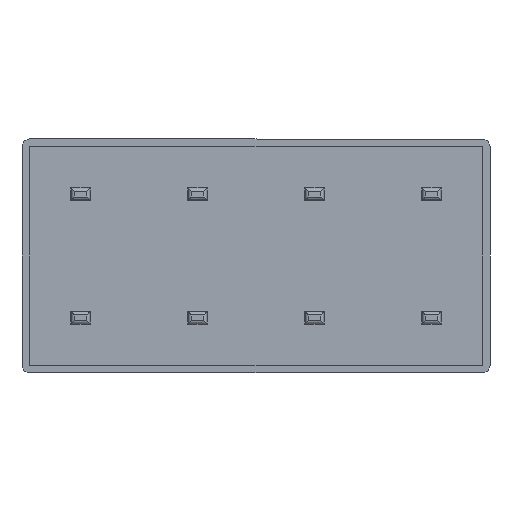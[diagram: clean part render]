
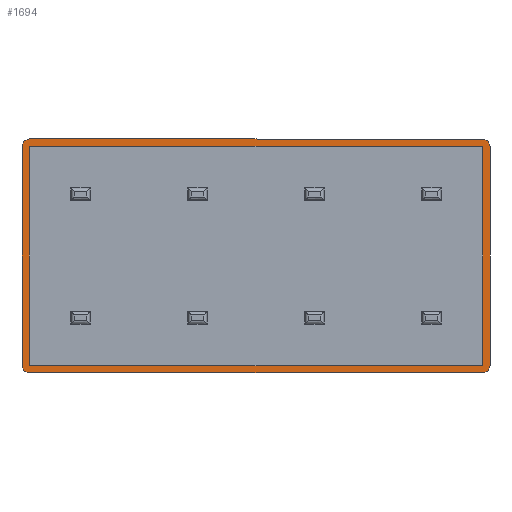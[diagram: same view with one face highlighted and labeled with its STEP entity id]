
A CAD part, front view. The second image highlights one B-rep face of the part: STEP entity #1694.
In plain terms, the highlighted planar face has unit normal (0, -1, 0).
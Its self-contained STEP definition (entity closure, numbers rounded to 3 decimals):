
#26 = PLANE ( 'NONE',  #1703 ) ;
#62 = EDGE_CURVE ( 'NONE', #1124, #2575, #727, .T. ) ;
#72 = DIRECTION ( 'NONE',  ( 0., 0., 1. ) ) ;
#83 = DIRECTION ( 'NONE',  ( 0., 0., -1. ) ) ;
#100 = DIRECTION ( 'NONE',  ( 0., 0., 1. ) ) ;
#116 = EDGE_CURVE ( 'NONE', #1579, #312, #1731, .T. ) ;
#119 = DIRECTION ( 'NONE',  ( 0., 0., 1. ) ) ;
#124 = DIRECTION ( 'NONE',  ( 0., 0., 1. ) ) ;
#136 = EDGE_CURVE ( 'NONE', #1507, #2157, #1666, .T. ) ;
#140 = CARTESIAN_POINT ( 'NONE',  ( 58., -1.5, 28.2 ) ) ;
#141 = DIRECTION ( 'NONE',  ( 0., 0., 1. ) ) ;
#161 = DIRECTION ( 'NONE',  ( 0., 0., -1. ) ) ;
#174 = EDGE_CURVE ( 'NONE', #1871, #1124, #950, .T. ) ;
#210 = VECTOR ( 'NONE', #1228, 1000. ) ;
#269 = AXIS2_PLACEMENT_3D ( 'NONE', #2700, #1409, #141 ) ;
#278 = CARTESIAN_POINT ( 'NONE',  ( -58., -1.5, 28.2 ) ) ;
#288 = CARTESIAN_POINT ( 'NONE',  ( 60., -1.5, 28. ) ) ;
#310 = ORIENTED_EDGE ( 'NONE', *, *, #576, .F. ) ;
#312 = VERTEX_POINT ( 'NONE', #2446 ) ;
#369 = VECTOR ( 'NONE', #2527, 1000. ) ;
#403 = CARTESIAN_POINT ( 'NONE',  ( -58.2, -1.5, 28. ) ) ;
#430 = CARTESIAN_POINT ( 'NONE',  ( -58., -1.5, 28. ) ) ;
#440 = CARTESIAN_POINT ( 'NONE',  ( -58., -1.5, 30. ) ) ;
#444 = DIRECTION ( 'NONE',  ( 0., 0., 1. ) ) ;
#462 = VERTEX_POINT ( 'NONE', #512 ) ;
#496 = EDGE_CURVE ( 'NONE', #920, #2726, #1438, .T. ) ;
#512 = CARTESIAN_POINT ( 'NONE',  ( -58., -1.5, -30. ) ) ;
#522 = ORIENTED_EDGE ( 'NONE', *, *, #2472, .F. ) ;
#525 = EDGE_CURVE ( 'NONE', #1033, #1347, #2423, .T. ) ;
#564 = CARTESIAN_POINT ( 'NONE',  ( -60., -1.5, -28. ) ) ;
#576 = EDGE_CURVE ( 'NONE', #2575, #462, #2356, .T. ) ;
#612 = CARTESIAN_POINT ( 'NONE',  ( -58., -1.5, -28. ) ) ;
#630 = ORIENTED_EDGE ( 'NONE', *, *, #525, .F. ) ;
#639 = DIRECTION ( 'NONE',  ( 0., 0., -1. ) ) ;
#679 = CARTESIAN_POINT ( 'NONE',  ( 58., -1.5, 30. ) ) ;
#684 = EDGE_CURVE ( 'NONE', #2554, #1871, #1336, .T. ) ;
#727 = CIRCLE ( 'NONE', #1570, 2. ) ;
#754 = CARTESIAN_POINT ( 'NONE',  ( -58., -1.5, -30. ) ) ;
#756 = ORIENTED_EDGE ( 'NONE', *, *, #2197, .F. ) ;
#759 = CARTESIAN_POINT ( 'NONE',  ( -58., -1.5, -28. ) ) ;
#824 = DIRECTION ( 'NONE',  ( 0., 0., 1. ) ) ;
#838 = ORIENTED_EDGE ( 'NONE', *, *, #136, .F. ) ;
#845 = VECTOR ( 'NONE', #1063, 1000. ) ;
#849 = EDGE_CURVE ( 'NONE', #875, #1579, #924, .T. ) ;
#868 = VECTOR ( 'NONE', #100, 1000. ) ;
#875 = VERTEX_POINT ( 'NONE', #403 ) ;
#879 = CARTESIAN_POINT ( 'NONE',  ( 58.2, -1.5, -28. ) ) ;
#909 = CARTESIAN_POINT ( 'NONE',  ( -60., -1.5, 28. ) ) ;
#920 = VERTEX_POINT ( 'NONE', #879 ) ;
#924 = LINE ( 'NONE', #1241, #369 ) ;
#945 = ORIENTED_EDGE ( 'NONE', *, *, #1150, .F. ) ;
#949 = ORIENTED_EDGE ( 'NONE', *, *, #2181, .F. ) ;
#950 = LINE ( 'NONE', #1424, #2681 ) ;
#958 = AXIS2_PLACEMENT_3D ( 'NONE', #430, #1914, #639 ) ;
#963 = DIRECTION ( 'NONE',  ( 0., 0., -1. ) ) ;
#994 = CARTESIAN_POINT ( 'NONE',  ( -58.2, -1.5, -28. ) ) ;
#1014 = CARTESIAN_POINT ( 'NONE',  ( -58., -1.5, -28.2 ) ) ;
#1033 = VERTEX_POINT ( 'NONE', #2706 ) ;
#1063 = DIRECTION ( 'NONE',  ( 1., 0., 0. ) ) ;
#1074 = CARTESIAN_POINT ( 'NONE',  ( 58., -1.5, 28. ) ) ;
#1085 = VECTOR ( 'NONE', #1817, 1000. ) ;
#1124 = VERTEX_POINT ( 'NONE', #1442 ) ;
#1141 = LINE ( 'NONE', #909, #2137 ) ;
#1150 = EDGE_CURVE ( 'NONE', #312, #1338, #2536, .T. ) ;
#1164 = VECTOR ( 'NONE', #1616, 1000. ) ;
#1172 = CARTESIAN_POINT ( 'NONE',  ( -58., -1.5, 28.2 ) ) ;
#1202 = ORIENTED_EDGE ( 'NONE', *, *, #1695, .F. ) ;
#1228 = DIRECTION ( 'NONE',  ( 1., 0., 0. ) ) ;
#1237 = CARTESIAN_POINT ( 'NONE',  ( 58.2, -1.5, 28. ) ) ;
#1241 = CARTESIAN_POINT ( 'NONE',  ( -58.2, -1.5, 28. ) ) ;
#1252 = AXIS2_PLACEMENT_3D ( 'NONE', #612, #2096, #824 ) ;
#1293 = DIRECTION ( 'NONE',  ( 0., 0., -1. ) ) ;
#1336 = CIRCLE ( 'NONE', #269, 2. ) ;
#1338 = VERTEX_POINT ( 'NONE', #1962 ) ;
#1347 = VERTEX_POINT ( 'NONE', #2576 ) ;
#1356 = DIRECTION ( 'NONE',  ( 0., -1., 0. ) ) ;
#1387 = DIRECTION ( 'NONE',  ( 0., 1., 0. ) ) ;
#1391 = DIRECTION ( 'NONE',  ( 0., 1., 0. ) ) ;
#1409 = DIRECTION ( 'NONE',  ( 0., 1., 0. ) ) ;
#1424 = CARTESIAN_POINT ( 'NONE',  ( 60., -1.5, 28. ) ) ;
#1438 = LINE ( 'NONE', #2664, #868 ) ;
#1442 = CARTESIAN_POINT ( 'NONE',  ( 60., -1.5, -28. ) ) ;
#1464 = ORIENTED_EDGE ( 'NONE', *, *, #496, .F. ) ;
#1507 = VERTEX_POINT ( 'NONE', #140 ) ;
#1549 = ORIENTED_EDGE ( 'NONE', *, *, #116, .F. ) ;
#1560 = AXIS2_PLACEMENT_3D ( 'NONE', #1074, #2587, #1293 ) ;
#1570 = AXIS2_PLACEMENT_3D ( 'NONE', #2676, #1387, #119 ) ;
#1579 = VERTEX_POINT ( 'NONE', #994 ) ;
#1595 = AXIS2_PLACEMENT_3D ( 'NONE', #2644, #1356, #83 ) ;
#1608 = AXIS2_PLACEMENT_3D ( 'NONE', #2679, #1391, #124 ) ;
#1616 = DIRECTION ( 'NONE',  ( -1., 0., 0. ) ) ;
#1617 = CIRCLE ( 'NONE', #958, 0.2 ) ;
#1664 = ORIENTED_EDGE ( 'NONE', *, *, #2409, .F. ) ;
#1666 = LINE ( 'NONE', #1172, #1085 ) ;
#1673 = ORIENTED_EDGE ( 'NONE', *, *, #174, .F. ) ;
#1694 = ADVANCED_FACE ( 'NONE', ( #2407, #2279 ), #26, .F. ) ;
#1695 = EDGE_CURVE ( 'NONE', #2726, #1507, #1720, .T. ) ;
#1703 = AXIS2_PLACEMENT_3D ( 'NONE', #1710, #1917, #444 ) ;
#1710 = CARTESIAN_POINT ( 'NONE',  ( -58., -1.5, -28. ) ) ;
#1720 = CIRCLE ( 'NONE', #1560, 0.2 ) ;
#1731 = CIRCLE ( 'NONE', #1847, 0.2 ) ;
#1809 = CIRCLE ( 'NONE', #1252, 2. ) ;
#1817 = DIRECTION ( 'NONE',  ( -1., 0., 0. ) ) ;
#1847 = AXIS2_PLACEMENT_3D ( 'NONE', #759, #2241, #963 ) ;
#1865 = ORIENTED_EDGE ( 'NONE', *, *, #684, .F. ) ;
#1871 = VERTEX_POINT ( 'NONE', #288 ) ;
#1914 = DIRECTION ( 'NONE',  ( 0., -1., 0. ) ) ;
#1917 = DIRECTION ( 'NONE',  ( 0., 1., 0. ) ) ;
#1962 = CARTESIAN_POINT ( 'NONE',  ( 58., -1.5, -28.2 ) ) ;
#1967 = ORIENTED_EDGE ( 'NONE', *, *, #2328, .F. ) ;
#1973 = CARTESIAN_POINT ( 'NONE',  ( 58., -1.5, -30. ) ) ;
#2038 = LINE ( 'NONE', #440, #845 ) ;
#2062 = ORIENTED_EDGE ( 'NONE', *, *, #62, .F. ) ;
#2068 = ORIENTED_EDGE ( 'NONE', *, *, #849, .F. ) ;
#2096 = DIRECTION ( 'NONE',  ( 0., 1., 0. ) ) ;
#2137 = VECTOR ( 'NONE', #72, 1000. ) ;
#2157 = VERTEX_POINT ( 'NONE', #278 ) ;
#2181 = EDGE_CURVE ( 'NONE', #2607, #1033, #1141, .T. ) ;
#2197 = EDGE_CURVE ( 'NONE', #1338, #920, #2667, .T. ) ;
#2241 = DIRECTION ( 'NONE',  ( 0., -1., 0. ) ) ;
#2279 = FACE_OUTER_BOUND ( 'NONE', #2314, .T. ) ;
#2314 = EDGE_LOOP ( 'NONE', ( #1967, #310, #2062, #1673, #1865, #522, #630, #949 ) ) ;
#2319 = EDGE_LOOP ( 'NONE', ( #2068, #1664, #838, #1202, #1464, #756, #945, #1549 ) ) ;
#2328 = EDGE_CURVE ( 'NONE', #462, #2607, #1809, .T. ) ;
#2356 = LINE ( 'NONE', #754, #1164 ) ;
#2407 = FACE_BOUND ( 'NONE', #2319, .T. ) ;
#2409 = EDGE_CURVE ( 'NONE', #2157, #875, #1617, .T. ) ;
#2423 = CIRCLE ( 'NONE', #1608, 2. ) ;
#2446 = CARTESIAN_POINT ( 'NONE',  ( -58., -1.5, -28.2 ) ) ;
#2472 = EDGE_CURVE ( 'NONE', #1347, #2554, #2038, .T. ) ;
#2527 = DIRECTION ( 'NONE',  ( 0., 0., -1. ) ) ;
#2536 = LINE ( 'NONE', #1014, #210 ) ;
#2554 = VERTEX_POINT ( 'NONE', #679 ) ;
#2575 = VERTEX_POINT ( 'NONE', #1973 ) ;
#2576 = CARTESIAN_POINT ( 'NONE',  ( -58., -1.5, 30. ) ) ;
#2587 = DIRECTION ( 'NONE',  ( 0., -1., 0. ) ) ;
#2607 = VERTEX_POINT ( 'NONE', #564 ) ;
#2644 = CARTESIAN_POINT ( 'NONE',  ( 58., -1.5, -28. ) ) ;
#2664 = CARTESIAN_POINT ( 'NONE',  ( 58.2, -1.5, 28. ) ) ;
#2667 = CIRCLE ( 'NONE', #1595, 0.2 ) ;
#2676 = CARTESIAN_POINT ( 'NONE',  ( 58., -1.5, -28. ) ) ;
#2679 = CARTESIAN_POINT ( 'NONE',  ( -58., -1.5, 28. ) ) ;
#2681 = VECTOR ( 'NONE', #161, 1000. ) ;
#2700 = CARTESIAN_POINT ( 'NONE',  ( 58., -1.5, 28. ) ) ;
#2706 = CARTESIAN_POINT ( 'NONE',  ( -60., -1.5, 28. ) ) ;
#2726 = VERTEX_POINT ( 'NONE', #1237 ) ;
